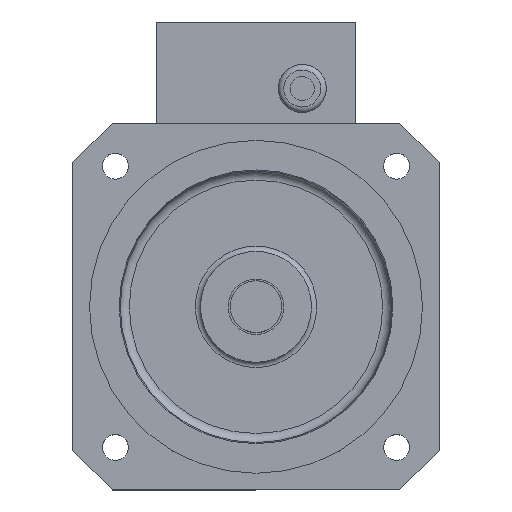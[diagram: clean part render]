
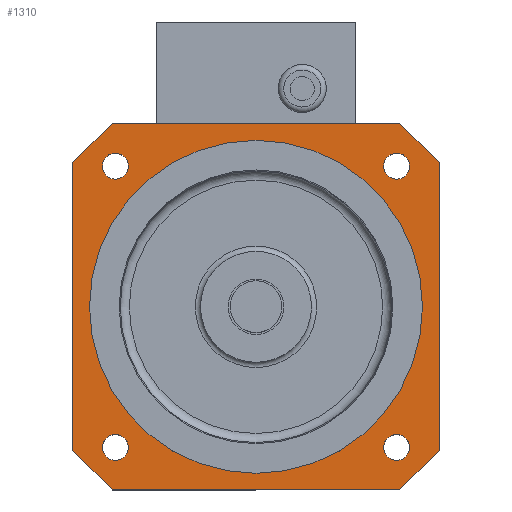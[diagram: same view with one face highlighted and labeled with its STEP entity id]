
A CAD part, top view. The second image highlights one B-rep face of the part: STEP entity #1310.
In plain terms, the highlighted planar face has unit normal (0, 0, 1) as drawn and (0, 0, -1) by its records, which use the part's own axes.
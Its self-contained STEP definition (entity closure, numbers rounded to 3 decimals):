
#1310=ADVANCED_FACE('',(#2065,#2066,#2067,#2068,#2069,#2555),#1903,.T.);
#1903=PLANE('',#16704);
#2065=FACE_BOUND('',#3375,.T.);
#2066=FACE_BOUND('',#3376,.T.);
#2067=FACE_BOUND('',#3377,.T.);
#2068=FACE_BOUND('',#3378,.T.);
#2069=FACE_BOUND('',#3379,.T.);
#2555=FACE_OUTER_BOUND('',#3380,.T.);
#3375=EDGE_LOOP('',(#7207));
#3376=EDGE_LOOP('',(#7208));
#3377=EDGE_LOOP('',(#7209));
#3378=EDGE_LOOP('',(#7210));
#3379=EDGE_LOOP('',(#7211));
#3380=EDGE_LOOP('',(#7212,#7213,#7214,#7215,#7216,#7217,#7218,#7219));
#4337=CIRCLE('',#16699,7.);
#4338=CIRCLE('',#16700,7.);
#4339=CIRCLE('',#16701,7.);
#4340=CIRCLE('',#16702,7.);
#4341=CIRCLE('',#16703,90.);
#7207=ORIENTED_EDGE('',*,*,#12185,.T.);
#7208=ORIENTED_EDGE('',*,*,#12186,.T.);
#7209=ORIENTED_EDGE('',*,*,#12187,.T.);
#7210=ORIENTED_EDGE('',*,*,#12188,.T.);
#7211=ORIENTED_EDGE('',*,*,#12189,.F.);
#7212=ORIENTED_EDGE('',*,*,#12190,.F.);
#7213=ORIENTED_EDGE('',*,*,#12191,.T.);
#7214=ORIENTED_EDGE('',*,*,#12176,.F.);
#7215=ORIENTED_EDGE('',*,*,#12192,.T.);
#7216=ORIENTED_EDGE('',*,*,#12180,.F.);
#7217=ORIENTED_EDGE('',*,*,#12193,.T.);
#7218=ORIENTED_EDGE('',*,*,#12183,.F.);
#7219=ORIENTED_EDGE('',*,*,#12194,.T.);
#10217=VERTEX_POINT('',#24746);
#10218=VERTEX_POINT('',#24747);
#10219=VERTEX_POINT('',#24752);
#10220=VERTEX_POINT('',#24754);
#10221=VERTEX_POINT('',#24758);
#10222=VERTEX_POINT('',#24760);
#10223=VERTEX_POINT('',#24764);
#10224=VERTEX_POINT('',#24766);
#10225=VERTEX_POINT('',#24768);
#10226=VERTEX_POINT('',#24770);
#10227=VERTEX_POINT('',#24772);
#10228=VERTEX_POINT('',#24774);
#10229=VERTEX_POINT('',#24775);
#12176=EDGE_CURVE('',#10217,#10218,#14004,.T.);
#12180=EDGE_CURVE('',#10219,#10220,#14008,.T.);
#12183=EDGE_CURVE('',#10221,#10222,#14011,.T.);
#12185=EDGE_CURVE('',#10223,#10223,#4337,.T.);
#12186=EDGE_CURVE('',#10224,#10224,#4338,.T.);
#12187=EDGE_CURVE('',#10225,#10225,#4339,.T.);
#12188=EDGE_CURVE('',#10226,#10226,#4340,.T.);
#12189=EDGE_CURVE('',#10227,#10227,#4341,.T.);
#12190=EDGE_CURVE('',#10228,#10229,#14013,.T.);
#12191=EDGE_CURVE('',#10228,#10218,#14014,.T.);
#12192=EDGE_CURVE('',#10217,#10220,#14015,.T.);
#12193=EDGE_CURVE('',#10219,#10222,#14016,.T.);
#12194=EDGE_CURVE('',#10221,#10229,#14017,.T.);
#14004=LINE('',#24745,#15272);
#14008=LINE('',#24753,#15276);
#14011=LINE('',#24759,#15279);
#14013=LINE('',#24773,#15281);
#14014=LINE('',#24776,#15282);
#14015=LINE('',#24777,#15283);
#14016=LINE('',#24778,#15284);
#14017=LINE('',#24779,#15285);
#15272=VECTOR('',#20085,1.);
#15276=VECTOR('',#20091,1.);
#15279=VECTOR('',#20096,1.);
#15281=VECTOR('',#20110,1.);
#15282=VECTOR('',#20111,1.);
#15283=VECTOR('',#20112,1.);
#15284=VECTOR('',#20113,1.);
#15285=VECTOR('',#20114,1.);
#16699=AXIS2_PLACEMENT_3D('',#24763,#20100,#20101);
#16700=AXIS2_PLACEMENT_3D('',#24765,#20102,#20103);
#16701=AXIS2_PLACEMENT_3D('',#24767,#20104,#20105);
#16702=AXIS2_PLACEMENT_3D('',#24769,#20106,#20107);
#16703=AXIS2_PLACEMENT_3D('',#24771,#20108,#20109);
#16704=AXIS2_PLACEMENT_3D('',#24780,#20115,#20116);
#20085=DIRECTION('',(1.,0.,0.));
#20091=DIRECTION('',(0.,-1.,0.));
#20096=DIRECTION('',(-1.,0.,0.));
#20100=DIRECTION('',(0.,0.,1.));
#20101=DIRECTION('',(0.,1.,0.));
#20102=DIRECTION('',(0.,0.,1.));
#20103=DIRECTION('',(-1.,0.,0.));
#20104=DIRECTION('',(0.,0.,1.));
#20105=DIRECTION('',(0.,-1.,0.));
#20106=DIRECTION('',(0.,0.,1.));
#20107=DIRECTION('',(1.,0.,0.));
#20108=DIRECTION('',(0.,0.,-1.));
#20109=DIRECTION('',(-1.,0.,0.));
#20110=DIRECTION('',(0.,1.,0.));
#20111=DIRECTION('',(-0.707,-0.707,0.));
#20112=DIRECTION('',(-0.707,0.707,0.));
#20113=DIRECTION('',(0.707,0.707,0.));
#20114=DIRECTION('',(0.707,-0.707,0.));
#20115=DIRECTION('',(0.,0.,-1.));
#20116=DIRECTION('',(-1.,0.,0.));
#24745=CARTESIAN_POINT('',(99.,0.,0.));
#24746=CARTESIAN_POINT('',(21.22,0.,0.));
#24747=CARTESIAN_POINT('',(176.78,0.,0.));
#24752=CARTESIAN_POINT('',(0.,176.78,0.));
#24753=CARTESIAN_POINT('',(0.,99.,0.));
#24754=CARTESIAN_POINT('',(0.,21.22,0.));
#24758=CARTESIAN_POINT('',(176.78,198.,0.));
#24759=CARTESIAN_POINT('',(99.,198.,0.));
#24760=CARTESIAN_POINT('',(21.22,198.,0.));
#24763=CARTESIAN_POINT('',(22.986,175.014,0.));
#24764=CARTESIAN_POINT('',(22.986,182.014,0.));
#24765=CARTESIAN_POINT('',(22.986,22.986,0.));
#24766=CARTESIAN_POINT('',(15.986,22.986,0.));
#24767=CARTESIAN_POINT('',(175.014,22.986,0.));
#24768=CARTESIAN_POINT('',(175.014,15.986,0.));
#24769=CARTESIAN_POINT('',(175.014,175.014,0.));
#24770=CARTESIAN_POINT('',(182.014,175.014,0.));
#24771=CARTESIAN_POINT('',(99.,99.,0.));
#24772=CARTESIAN_POINT('',(9.,99.,0.));
#24773=CARTESIAN_POINT('',(198.,99.,0.));
#24774=CARTESIAN_POINT('',(198.,21.22,0.));
#24775=CARTESIAN_POINT('',(198.,176.78,0.));
#24776=CARTESIAN_POINT('',(187.39,10.61,0.));
#24777=CARTESIAN_POINT('',(10.61,10.61,0.));
#24778=CARTESIAN_POINT('',(10.61,187.39,0.));
#24779=CARTESIAN_POINT('',(187.39,187.39,0.));
#24780=CARTESIAN_POINT('',(99.,99.,0.));
